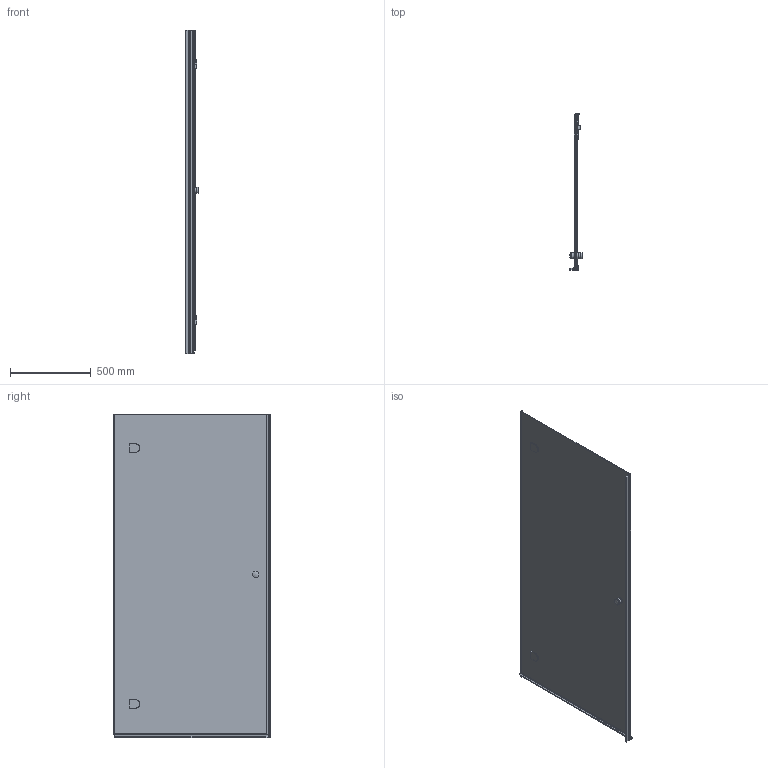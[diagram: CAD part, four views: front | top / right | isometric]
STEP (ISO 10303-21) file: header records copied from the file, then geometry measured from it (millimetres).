
FILE_DESCRIPTION(/* description */ (''),/* implementation_level */ '2;1');
FILE_NAME(/* name */ 'D:\1\LUX DOOR GK-001-2511\LUX DOOR GK-001-2511 правая модель\Вспомогательные файлы конструктора\LUX DOOR GK-001-2511 ПРАВАЯ-3D.stp',/* time_stamp */ '2017-07-18T15:58:52+03:00',/* author */ ('ChechurovS'),/* organization */ (''),/* preprocessor_version */ 'ST-DEVELOPER v15.2',/* originating_system */ 'Autodesk Inventor 2014',/* authorisation */ '');
FILE_SCHEMA (('CONFIG_CONTROL_DESIGN'));
Length unit declared in the file: millimetre
Products named in the file (1): LUX DOOR GK-001-2511 ПРАВАЯ-
3D
Bounding box: 82.8 x 966.5 x 2000 mm (x, y, z)
Volume: 12676598.6 mm3; surface area: 4361150.2 mm2
Topology: 4 solids, 6 shells, 458 faces, 1184 edges, 746 vertices
Faces by surface type: plane 318, cylinder 122, torus 12, bspline 4, sphere 2
Full cylindrical faces by diameter (mm): 38 x4
Entity records: 14693 total; most frequent: CARTESIAN_POINT 2953, ORIENTED_EDGE 2358, DIRECTION 2294, EDGE_CURVE 1177, LINE 880, VECTOR 880, VERTEX_POINT 746, AXIS2_PLACEMENT_3D 707
